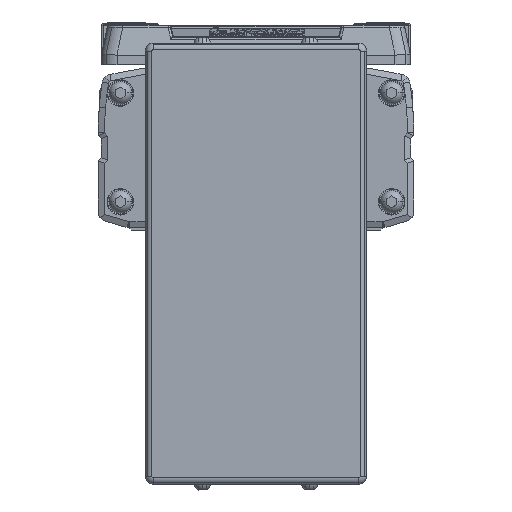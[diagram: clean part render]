
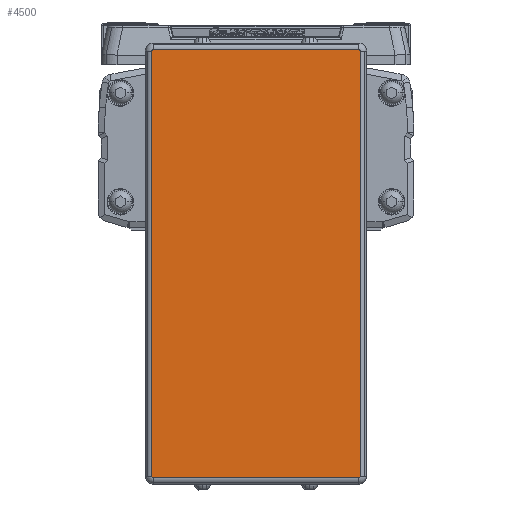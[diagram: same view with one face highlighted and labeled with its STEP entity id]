
A CAD part, left-side view. The second image highlights one B-rep face of the part: STEP entity #4500.
In plain terms, the highlighted planar face has unit normal (-1, 0, 0).
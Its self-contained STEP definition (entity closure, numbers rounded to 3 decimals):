
#4500=ADVANCED_FACE('',(#9750),#9751,.F.);
#9750=FACE_OUTER_BOUND('',#16254,.T.);
#9751=PLANE('',#16255);
#16254=EDGE_LOOP('',(#29161,#29162,#29163,#29164,#29165,#29166,#29167,#29168));
#16255=AXIS2_PLACEMENT_3D('',#29169,#29170,#29171);
#29161=ORIENTED_EDGE('',*,*,#40547,.T.);
#29162=ORIENTED_EDGE('',*,*,#41617,.T.);
#29163=ORIENTED_EDGE('',*,*,#39495,.T.);
#29164=ORIENTED_EDGE('',*,*,#38877,.T.);
#29165=ORIENTED_EDGE('',*,*,#38263,.T.);
#29166=ORIENTED_EDGE('',*,*,#41370,.T.);
#29167=ORIENTED_EDGE('',*,*,#41618,.T.);
#29168=ORIENTED_EDGE('',*,*,#37531,.T.);
#29169=CARTESIAN_POINT('',(-616.0,0.,-41.6));
#29170=DIRECTION('',(1.0,0.,0.));
#29171=DIRECTION('',(0.,0.,1.0));
#37531=EDGE_CURVE('',#45315,#45313,#45316,.T.);
#38263=EDGE_CURVE('',#46541,#46539,#46542,.T.);
#38877=EDGE_CURVE('',#47559,#46541,#47560,.T.);
#39495=EDGE_CURVE('',#48529,#47559,#48530,.T.);
#40547=EDGE_CURVE('',#45313,#50085,#50087,.T.);
#41370=EDGE_CURVE('',#46539,#51168,#51170,.T.);
#41617=EDGE_CURVE('',#50085,#48529,#51476,.T.);
#41618=EDGE_CURVE('',#51168,#45315,#51477,.T.);
#45313=VERTEX_POINT('',#56204);
#45315=VERTEX_POINT('',#56206);
#45316=CIRCLE('',#56207,0.5);
#46539=VERTEX_POINT('',#57831);
#46541=VERTEX_POINT('',#57833);
#46542=LINE('',#57834,#57835);
#47559=VERTEX_POINT('',#59210);
#47560=CIRCLE('',#59211,0.5);
#48529=VERTEX_POINT('',#60524);
#48530=LINE('',#60525,#60526);
#50085=VERTEX_POINT('',#62612);
#50087=LINE('',#62614,#62615);
#51168=VERTEX_POINT('',#64142);
#51170=CIRCLE('',#64144,0.5);
#51476=CIRCLE('',#64558,0.5);
#51477=LINE('',#64559,#64560);
#56204=CARTESIAN_POINT('',(-616.0,-33.05,-109.));
#56206=CARTESIAN_POINT('',(-616.0,-32.55,-109.5));
#56207=AXIS2_PLACEMENT_3D('',#68656,#68657,#68658);
#57831=CARTESIAN_POINT('',(-616.0,33.05,-109.));
#57833=CARTESIAN_POINT('',(-616.,33.05,25.8));
#57834=CARTESIAN_POINT('',(-616.0,33.05,-41.6));
#57835=VECTOR('',#69710,10.0);
#59210=CARTESIAN_POINT('',(-616.,32.55,26.3));
#59211=AXIS2_PLACEMENT_3D('',#70559,#70560,#70561);
#60524=CARTESIAN_POINT('',(-616.,-32.55,26.3));
#60525=CARTESIAN_POINT('',(-616.,0.,26.3));
#60526=VECTOR('',#71373,10.0);
#62612=CARTESIAN_POINT('',(-616.,-33.05,25.8));
#62614=CARTESIAN_POINT('',(-616.,-33.05,-41.6));
#62615=VECTOR('',#72800,10.0);
#64142=CARTESIAN_POINT('',(-616.0,32.55,-109.5));
#64144=AXIS2_PLACEMENT_3D('',#73798,#73799,#73800);
#64558=AXIS2_PLACEMENT_3D('',#74076,#74077,#74078);
#64559=CARTESIAN_POINT('',(-616.0,0.,-109.5));
#64560=VECTOR('',#74079,10.0);
#68656=CARTESIAN_POINT('',(-616.0,-32.55,-109.));
#68657=DIRECTION('',(-1.0,0.,0.));
#68658=DIRECTION('',(0.,-0.707,-0.707));
#69710=DIRECTION('',(0.,0.,-1.0));
#70559=CARTESIAN_POINT('',(-616.,32.55,25.8));
#70560=DIRECTION('',(-1.0,0.,0.));
#70561=DIRECTION('',(0.,0.707,0.707));
#71373=DIRECTION('',(0.,1.0,0.));
#72800=DIRECTION('',(0.,0.,1.0));
#73798=CARTESIAN_POINT('',(-616.0,32.55,-109.));
#73799=DIRECTION('',(-1.0,0.,0.));
#73800=DIRECTION('',(0.,0.707,-0.707));
#74076=CARTESIAN_POINT('',(-616.,-32.55,25.8));
#74077=DIRECTION('',(-1.0,0.,0.));
#74078=DIRECTION('',(0.,-0.707,0.707));
#74079=DIRECTION('',(0.,-1.0,0.));
